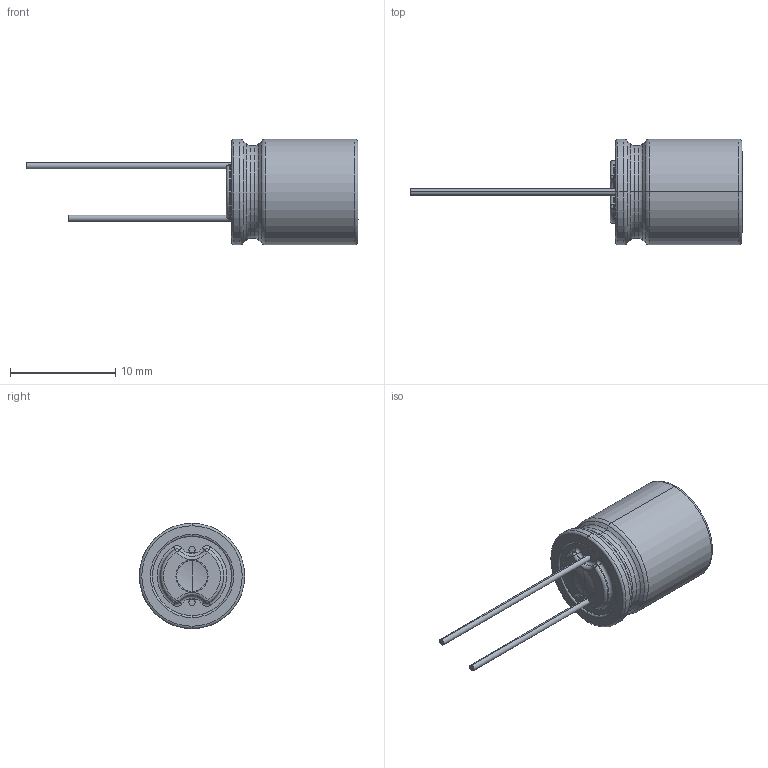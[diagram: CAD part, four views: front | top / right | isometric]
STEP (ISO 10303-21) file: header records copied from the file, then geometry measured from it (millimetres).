
FILE_DESCRIPTION((''),'2;1');
FILE_NAME('POLYMER-RADIAL10X125','2020-06-03T',('xy'),(''),'PRO/ENGINEER BY PARAMETRIC TECHNOLOGY CORPORATION, 2009380','PRO/ENGINEER BY PARAMETRIC TECHNOLOGY CORPORATION, 2009380','');
FILE_SCHEMA(('CONFIG_CONTROL_DESIGN'));
Length unit declared in the file: millimetre
Products named in the file (1): POLYMER-RADIAL10X125
Bounding box: 31.5 x 10 x 10 mm (x, y, z)
Volume: 932.9 mm3; surface area: 612.6 mm2
Topology: 1 solids, 1 shells, 448 faces, 1216 edges, 795 vertices
Faces by surface type: plane 388, torus 29, cylinder 21, sphere 4, cone 4, bspline 2
Entity records: 13940 total; most frequent: CARTESIAN_POINT 2534, ORIENTED_EDGE 2428, DIRECTION 2208, EDGE_CURVE 1214, VECTOR 1106, LINE 1106, VERTEX_POINT 795, AXIS2_PLACEMENT_3D 551
